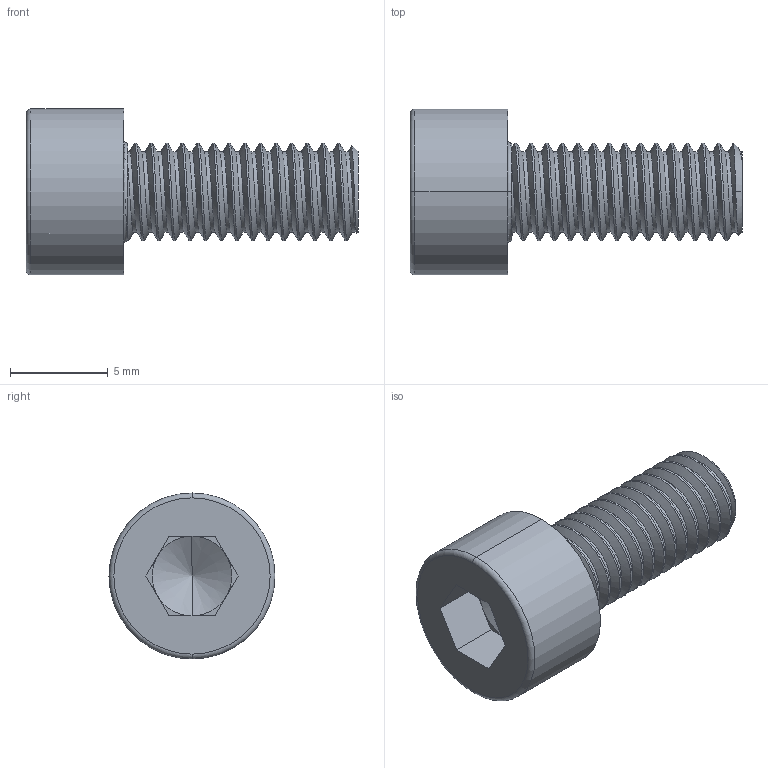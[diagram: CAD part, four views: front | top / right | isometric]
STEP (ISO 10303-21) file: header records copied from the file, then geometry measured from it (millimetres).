
FILE_DESCRIPTION (( 'STEP AP203' ), '1' );
FILE_NAME ('Ì5õ12_DIN912.STEP', '2025-11-19T04:43:42', ( '' ), ( '' ), 'SwSTEP 2.0', 'SolidWorks 2022', '' );
FILE_SCHEMA (( 'CONFIG_CONTROL_DESIGN' ));
Length unit declared in the file: millimetre
Products named in the file (1): М5х12_DIN912
Bounding box: 17 x 8.5 x 8.5 mm (x, y, z)
Volume: 433.9 mm3; surface area: 561.4 mm2
Topology: 1 solids, 1 shells, 60 faces, 157 edges, 99 vertices
Faces by surface type: cylinder 32, plane 16, cone 4, torus 4, bspline 4
Entity records: 6117 total; most frequent: CARTESIAN_POINT 4743, ORIENTED_EDGE 310, DIRECTION 225, EDGE_CURVE 155, VERTEX_POINT 99, AXIS2_PLACEMENT_3D 82, EDGE_LOOP 62, LINE 61
